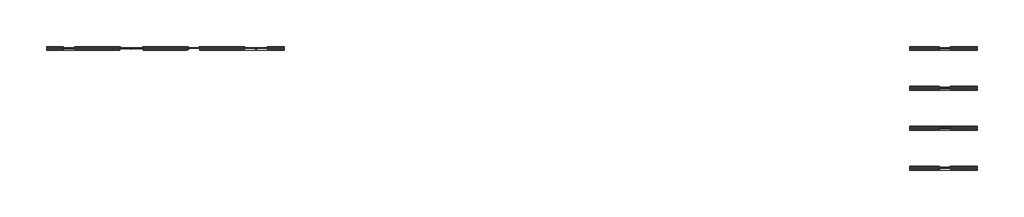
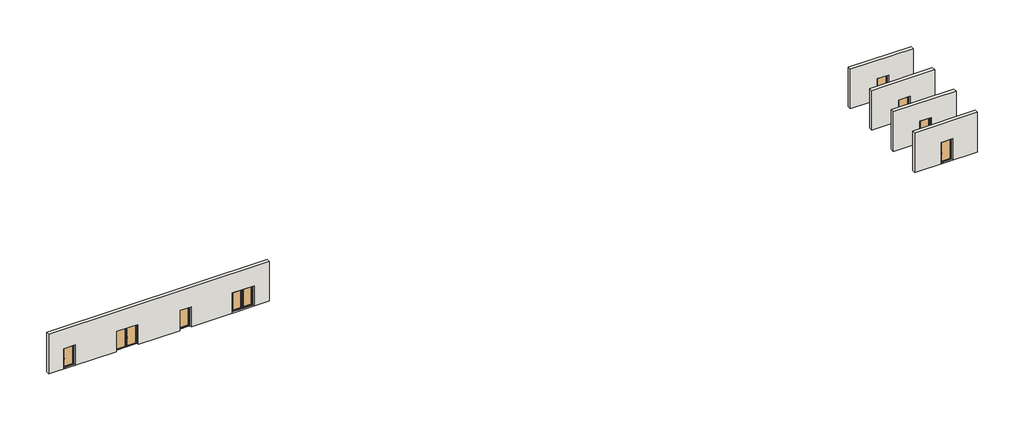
# One storey: 8 doors, 5 walls.
"""IFC4 building model written with IfcOpenShell, lengths in millimetres."""

from ifc_helpers import new_model, si_unit, origin, place, context, project, spatial, faceted_brep, transform, mapped, element, save
from components import door_7251b602, door_7a2ea824, door_cea9ec58, door_9e95c6df, door_001576ba, door_6dbdc447, door_154f1db0, door_6d8f63cc

model = new_model("IFC4")

# Units and contexts
model_context = context("Model", 3, world=origin())
ifc_project = project(units=[si_unit("LENGTHUNIT", "METRE", prefix="MILLI")], contexts=[model_context])

# Site, building, storey
site = spatial("IfcSite", under=ifc_project)
building = spatial("IfcBuilding", under=site)
storey = spatial("IfcBuildingStorey", under=building, Name="REY 01 - Overview Windows", Elevation=0.0)

# Doors
placement = place(None, origin())
door_shape = door_7251b602(model_context)
element("IfcDoor", 1, ObjectType="Reynaers_Masterline 8_Window Door_Outward Opening_Double Vent : Reynaers_Masterline 8_Window Door_Outward Opening_Double Vent", at=placement, inside=storey, context=model_context, shape_type="MappedRepresentation", body=[
    mapped(door_shape, transform((9884.3247656, 9435.7590232, 0.0), x_axis=(1.0, 0.0, 0.0), y_axis=(0.0, 1.0, 0.0), z_axis=(0.0, 0.0, 1.0))),
])
door_2_shape = door_7a2ea824(model_context)
element("IfcDoor", 2, ObjectType="Reynaers_Masterline 8_Window Door_Outward Opening_Single Vent : Reynaers_Masterline 8_Window Door_Outward Opening_Single Vent", at=placement, inside=storey, context=model_context, shape_type="MappedRepresentation", body=[
    mapped(door_2_shape, transform((4351.3247656, 9435.7590232, 0.0), x_axis=(1.0, 0.0, 0.0), y_axis=(0.0, 1.0, 0.0), z_axis=(0.0, 0.0, 1.0))),
])
door_3_shape = door_cea9ec58(model_context)
element("IfcDoor", 3, ObjectType="Reynaers_Masterline 8_Window Door_Inward Opening_Double Vent : Reynaers_Masterline 8_Window Door_Inward Opening_Double Vent", at=placement, inside=storey, context=model_context, shape_type="MappedRepresentation", body=[
    mapped(door_3_shape, transform((-1182.6752344, 9435.7590232, 0.0), x_axis=(1.0, 0.0, 0.0), y_axis=(0.0, 1.0, 0.0), z_axis=(0.0, 0.0, 1.0))),
])
door_4_shape = door_9e95c6df(model_context)
element("IfcDoor", 4, ObjectType="Reynaers_Masterline 8_Window Door_Inward Opening_Single Vent : Reynaers_Masterline 8_Window Door_Inward Opening_Single Vent", at=placement, inside=storey, context=model_context, shape_type="MappedRepresentation", body=[
    mapped(door_4_shape, transform((-6715.6752344, 9435.7590232, 0.0), x_axis=(1.0, 0.0, 0.0), y_axis=(0.0, 1.0, 0.0), z_axis=(0.0, 0.0, 1.0))),
])
door_5_shape = door_001576ba(model_context)
element("IfcDoor", 5, ObjectType="Reynaers_Masterline 8_Window Door_Inward Opening_Single Vent : Reynaers_Masterline 8_Window Door_Inward Opening_Single Vent", at=placement, inside=storey, context=model_context, shape_type="MappedRepresentation", body=[
    mapped(door_5_shape, transform((71071.8247656, 5887.8975638, 0.0), x_axis=(1.0, 0.0, 0.0), y_axis=(0.0, 1.0, 0.0), z_axis=(0.0, 0.0, 1.0))),
])
door_6_shape = door_6dbdc447(model_context)
element("IfcDoor", 6, ObjectType="Reynaers_Masterline 8_Window Door_Inward Opening_Single Vent : Reynaers_Masterline 8_Window Door_Inward Opening_Single Vent", at=placement, inside=storey, context=model_context, shape_type="MappedRepresentation", body=[
    mapped(door_6_shape, transform((71071.8247656, 9435.7590232, 0.0), x_axis=(1.0, 0.0, 0.0), y_axis=(0.0, 1.0, 0.0), z_axis=(0.0, 0.0, 1.0))),
])
door_7_shape = door_154f1db0(model_context)
element("IfcDoor", 7, ObjectType="Reynaers_Masterline 8_Window Door_Inward Opening_Single Vent : Reynaers_Masterline 8_Window Door_Inward Opening_Single Vent", at=placement, inside=storey, context=model_context, shape_type="MappedRepresentation", body=[
    mapped(door_7_shape, transform((71071.8247656, -1212.1024362, 0.0), x_axis=(1.0, 0.0, 0.0), y_axis=(0.0, 1.0, 0.0), z_axis=(0.0, 0.0, 1.0))),
])
door_8_shape = door_6d8f63cc(model_context)
element("IfcDoor", 8, ObjectType="Reynaers_Masterline 8_Window Door_Inward Opening_Single Vent : Reynaers_Masterline 8_Window Door_Inward Opening_Single Vent", at=placement, inside=storey, context=model_context, shape_type="MappedRepresentation", body=[
    mapped(door_8_shape, transform((71071.8247656, 2335.7590232, 0.0), x_axis=(1.0, 0.0, 0.0), y_axis=(0.0, 1.0, 0.0), z_axis=(0.0, 0.0, 1.0))),
])

# Walls
element("IfcWall", 9, ObjectType="21_SPM_90-30-80-140-10", at=placement, inside=storey, context=model_context, shape_type="Brep", body=[
    faceted_brep([(12384.3247656, 9260.7590232, 0.0), (12384.3247656, 9260.7590232, 4000.0), (-8715.6752344, 9260.7590232, 4000.0), (-8715.6752344, 9260.7590232, 0.0), (-2232.6752344, 9260.7590232, 0.0), (-2232.6752344, 9260.7590232, 2050.0), (-132.6752344, 9260.7590232, 2050.0), (-132.6752344, 9260.7590232, 0.0), (3801.3247656, 9260.7590232, 0.0), (3801.3247656, 9260.7590232, 2050.0), (4901.3247656, 9260.7590232, 2050.0), (4901.3247656, 9260.7590232, 0.0), (8834.3247656, 9260.7590232, 2050.0), (10934.3247656, 9260.7590232, 2050.0), (10934.3247656, 9260.7590232, 2.0), (8834.3247656, 9260.7590232, 2.0), (-7265.6752344, 9260.7590232, 2050.0), (-6165.6752344, 9260.7590232, 2050.0), (-6165.6752344, 9260.7590232, 1.0), (-7265.6752344, 9260.7590232, 1.0), (12384.3247656, 9610.7590232, 4000.0), (12384.3247656, 9610.7590232, 0.0), (10884.3247656, 9610.7590232, 0.0), (10884.3247656, 9610.7590232, 2000.0), (8884.3247656, 9610.7590232, 2000.0), (8884.3247656, 9610.7590232, 0.0), (4851.3247656, 9610.7590232, 0.0), (4851.3247656, 9610.7590232, 2000.0), (3851.3247656, 9610.7590232, 2000.0), (3851.3247656, 9610.7590232, 0.0), (-182.6752344, 9610.7590232, 0.0), (-182.6752344, 9610.7590232, 2000.0), (-2182.6752344, 9610.7590232, 2000.0), (-2182.6752344, 9610.7590232, 0.0), (-6215.6752344, 9610.7590232, 0.0), (-6215.6752344, 9610.7590232, 2000.0), (-7215.6752344, 9610.7590232, 2000.0), (-7215.6752344, 9610.7590232, 0.0), (-8715.6752344, 9610.7590232, 0.0), (-8715.6752344, 9610.7590232, 4000.0), (4901.3247656, 9520.7590232, 0.0), (4851.3247656, 9520.7590232, 0.0), (8884.3247656, 9520.7590232, 0.0), (10884.3247656, 9520.7590232, 0.0), (-7215.6752344, 9520.7590232, 0.0), (-6215.6752344, 9520.7590232, 0.0), (-2182.6752344, 9520.7590232, 0.0), (-2232.6752344, 9520.7590232, 0.0), (3851.3247656, 9520.7590232, 0.0), (3801.3247656, 9520.7590232, 0.0), (-132.6752344, 9520.7590232, 0.0), (-182.6752344, 9520.7590232, 0.0), (4851.3247656, 9520.7590232, 2000.0), (3851.3247656, 9520.7590232, 2000.0), (4901.3247656, 9520.7590232, 2050.0), (3801.3247656, 9520.7590232, 2050.0), (10884.3247656, 9520.7590232, 2000.0), (8884.3247656, 9520.7590232, 2000.0), (8884.3247656, 9520.7590232, 2.0), (10884.3247656, 9520.7590232, 2.0), (10934.3247656, 9520.7590232, 2050.0), (8834.3247656, 9520.7590232, 2050.0), (8834.3247656, 9520.7590232, 2.0), (10934.3247656, 9520.7590232, 2.0), (-6215.6752344, 9520.7590232, 2000.0), (-7215.6752344, 9520.7590232, 2000.0), (-7215.6752344, 9520.7590232, 1.0), (-6215.6752344, 9520.7590232, 1.0), (-6165.6752344, 9520.7590232, 2050.0), (-7265.6752344, 9520.7590232, 2050.0), (-7265.6752344, 9520.7590232, 1.0), (-6165.6752344, 9520.7590232, 1.0), (-182.6752344, 9520.7590232, 2000.0), (-2182.6752344, 9520.7590232, 2000.0), (-132.6752344, 9520.7590232, 2050.0), (-2232.6752344, 9520.7590232, 2050.0)], [[[0, 1, 2, 3, 4, 5, 6, 7, 8, 9, 10, 11], [12, 13, 14, 15], [16, 17, 18, 19]], [[20, 21, 22, 23, 24, 25, 26, 27, 28, 29, 30, 31, 32, 33, 34, 35, 36, 37, 38, 39]], [[21, 0, 11, 40, 41, 26, 25, 42, 43, 22]], [[3, 38, 37, 44, 45, 34, 33, 46, 47, 4]], [[29, 48, 49, 8, 7, 50, 51, 30]], [[1, 0, 21, 20]], [[2, 1, 20, 39]], [[3, 2, 39, 38]], [[27, 52, 53, 28]], [[28, 53, 48, 29]], [[52, 27, 26, 41]], [[54, 10, 9, 55]], [[53, 52, 41, 40, 54, 55, 49, 48]], [[55, 9, 8, 49]], [[10, 54, 40, 11]], [[23, 56, 57, 24]], [[24, 57, 58, 42, 25]], [[42, 58, 59, 43]], [[56, 23, 22, 43, 59]], [[60, 13, 12, 61]], [[59, 58, 62, 15, 14, 63]], [[57, 56, 59, 63, 60, 61, 62, 58]], [[61, 12, 15, 62]], [[13, 60, 63, 14]], [[35, 64, 65, 36]], [[36, 65, 66, 44, 37]], [[44, 66, 67, 45]], [[64, 35, 34, 45, 67]], [[68, 17, 16, 69]], [[67, 66, 70, 19, 18, 71]], [[65, 64, 67, 71, 68, 69, 70, 66]], [[69, 16, 19, 70]], [[17, 68, 71, 18]], [[31, 72, 73, 32]], [[32, 73, 46, 33]], [[72, 31, 30, 51]], [[74, 6, 5, 75]], [[73, 72, 51, 50, 74, 75, 47, 46]], [[75, 5, 4, 47]], [[6, 74, 50, 7]]]),
])
element("IfcWall", 10, ObjectType="21_SPM_90-30-80-140-10", at=placement, inside=storey, context=model_context, shape_type="Brep", body=[
    faceted_brep([(67971.8247656, 5712.8975638, 0.0), (73971.8247656, 5712.8975638, 0.0), (73971.8247656, 5712.8975638, 4000.0), (67971.8247656, 5712.8975638, 4000.0), (70521.8247656, 5712.8975638, 2150.0), (71621.8247656, 5712.8975638, 2150.0), (71621.8247656, 5712.8975638, 1.0), (70521.8247656, 5712.8975638, 1.0), (73971.8247656, 6062.8975638, 4000.0), (73971.8247656, 6062.8975638, 0.0), (71571.8247656, 6062.8975638, 0.0), (71571.8247656, 6062.8975638, 2100.0), (70571.8247656, 6062.8975638, 2100.0), (70571.8247656, 6062.8975638, 0.0), (67971.8247656, 6062.8975638, 0.0), (67971.8247656, 6062.8975638, 4000.0), (70571.8247656, 5972.8975638, 0.0), (71571.8247656, 5972.8975638, 0.0), (71571.8247656, 5972.8975638, 2100.0), (70571.8247656, 5972.8975638, 2100.0), (70571.8247656, 5972.8975638, 1.0), (71571.8247656, 5972.8975638, 1.0), (71621.8247656, 5972.8975638, 2150.0), (70521.8247656, 5972.8975638, 2150.0), (70521.8247656, 5972.8975638, 1.0), (71621.8247656, 5972.8975638, 1.0)], [[[0, 1, 2, 3], [4, 5, 6, 7]], [[8, 9, 10, 11, 12, 13, 14, 15]], [[1, 0, 14, 13, 16, 17, 10, 9]], [[2, 1, 9, 8]], [[3, 2, 8, 15]], [[0, 3, 15, 14]], [[11, 18, 19, 12]], [[12, 19, 20, 16, 13]], [[16, 20, 21, 17]], [[18, 11, 10, 17, 21]], [[22, 5, 4, 23]], [[21, 20, 24, 7, 6, 25]], [[19, 18, 21, 25, 22, 23, 24, 20]], [[23, 4, 7, 24]], [[5, 22, 25, 6]]]),
])
element("IfcWall", 11, ObjectType="21_SPM_90-30-80-140-10", at=placement, inside=storey, context=model_context, shape_type="Brep", body=[
    faceted_brep([(67971.8247656, 9260.7590232, 0.0), (73971.8247656, 9260.7590232, 0.0), (73971.8247656, 9260.7590232, 4000.0), (67971.8247656, 9260.7590232, 4000.0), (70521.8247656, 9260.7590232, 2150.0), (71621.8247656, 9260.7590232, 2150.0), (71621.8247656, 9260.7590232, 1.0), (70521.8247656, 9260.7590232, 1.0), (73971.8247656, 9610.7590232, 4000.0), (73971.8247656, 9610.7590232, 0.0), (71571.8247656, 9610.7590232, 0.0), (71571.8247656, 9610.7590232, 2100.0), (70571.8247656, 9610.7590232, 2100.0), (70571.8247656, 9610.7590232, 0.0), (67971.8247656, 9610.7590232, 0.0), (67971.8247656, 9610.7590232, 4000.0), (70571.8247656, 9520.7590232, 0.0), (71571.8247656, 9520.7590232, 0.0), (71571.8247656, 9520.7590232, 2100.0), (70571.8247656, 9520.7590232, 2100.0), (70571.8247656, 9520.7590232, 1.0), (71571.8247656, 9520.7590232, 1.0), (71621.8247656, 9520.7590232, 2150.0), (70521.8247656, 9520.7590232, 2150.0), (70521.8247656, 9520.7590232, 1.0), (71621.8247656, 9520.7590232, 1.0)], [[[0, 1, 2, 3], [4, 5, 6, 7]], [[8, 9, 10, 11, 12, 13, 14, 15]], [[1, 0, 14, 13, 16, 17, 10, 9]], [[2, 1, 9, 8]], [[3, 2, 8, 15]], [[0, 3, 15, 14]], [[11, 18, 19, 12]], [[12, 19, 20, 16, 13]], [[16, 20, 21, 17]], [[18, 11, 10, 17, 21]], [[22, 5, 4, 23]], [[21, 20, 24, 7, 6, 25]], [[19, 18, 21, 25, 22, 23, 24, 20]], [[23, 4, 7, 24]], [[5, 22, 25, 6]]]),
])
element("IfcWall", 12, ObjectType="21_SPM_90-30-80-140-10", at=placement, inside=storey, context=model_context, shape_type="Brep", body=[
    faceted_brep([(67971.8247656, -1387.1024362, 0.0), (73971.8247656, -1387.1024362, 0.0), (73971.8247656, -1387.1024362, 4000.0), (67971.8247656, -1387.1024362, 4000.0), (70521.8247656, -1387.1024362, 2150.0), (71621.8247656, -1387.1024362, 2150.0), (71621.8247656, -1387.1024362, 1.0), (70521.8247656, -1387.1024362, 1.0), (73971.8247656, -1037.1024362, 4000.0), (73971.8247656, -1037.1024362, 0.0), (71571.8247656, -1037.1024362, 0.0), (71571.8247656, -1037.1024362, 2100.0), (70571.8247656, -1037.1024362, 2100.0), (70571.8247656, -1037.1024362, 0.0), (67971.8247656, -1037.1024362, 0.0), (67971.8247656, -1037.1024362, 4000.0), (70571.8247656, -1127.1024362, 0.0), (71571.8247656, -1127.1024362, 0.0), (71571.8247656, -1127.1024362, 2100.0), (70571.8247656, -1127.1024362, 2100.0), (70571.8247656, -1127.1024362, 1.0), (71571.8247656, -1127.1024362, 1.0), (71621.8247656, -1127.1024362, 2150.0), (70521.8247656, -1127.1024362, 2150.0), (70521.8247656, -1127.1024362, 1.0), (71621.8247656, -1127.1024362, 1.0)], [[[0, 1, 2, 3], [4, 5, 6, 7]], [[8, 9, 10, 11, 12, 13, 14, 15]], [[1, 0, 14, 13, 16, 17, 10, 9]], [[2, 1, 9, 8]], [[3, 2, 8, 15]], [[0, 3, 15, 14]], [[11, 18, 19, 12]], [[12, 19, 20, 16, 13]], [[16, 20, 21, 17]], [[18, 11, 10, 17, 21]], [[22, 5, 4, 23]], [[21, 20, 24, 7, 6, 25]], [[19, 18, 21, 25, 22, 23, 24, 20]], [[23, 4, 7, 24]], [[5, 22, 25, 6]]]),
])
element("IfcWall", 13, ObjectType="21_SPM_90-30-80-140-10", at=placement, inside=storey, context=model_context, shape_type="Brep", body=[
    faceted_brep([(67971.8247656, 2160.7590232, 0.0), (73971.8247656, 2160.7590232, 0.0), (73971.8247656, 2160.7590232, 4000.0), (67971.8247656, 2160.7590232, 4000.0), (70521.8247656, 2160.7590232, 2150.0), (71621.8247656, 2160.7590232, 2150.0), (71621.8247656, 2160.7590232, 1.0), (70521.8247656, 2160.7590232, 1.0), (73971.8247656, 2510.7590232, 4000.0), (73971.8247656, 2510.7590232, 0.0), (71571.8247656, 2510.7590232, 0.0), (71571.8247656, 2510.7590232, 2100.0), (70571.8247656, 2510.7590232, 2100.0), (70571.8247656, 2510.7590232, 0.0), (67971.8247656, 2510.7590232, 0.0), (67971.8247656, 2510.7590232, 4000.0), (70571.8247656, 2420.7590232, 0.0), (71571.8247656, 2420.7590232, 0.0), (71571.8247656, 2420.7590232, 2100.0), (70571.8247656, 2420.7590232, 2100.0), (70571.8247656, 2420.7590232, 1.0), (71571.8247656, 2420.7590232, 1.0), (71621.8247656, 2420.7590232, 2150.0), (70521.8247656, 2420.7590232, 2150.0), (70521.8247656, 2420.7590232, 1.0), (71621.8247656, 2420.7590232, 1.0)], [[[0, 1, 2, 3], [4, 5, 6, 7]], [[8, 9, 10, 11, 12, 13, 14, 15]], [[1, 0, 14, 13, 16, 17, 10, 9]], [[2, 1, 9, 8]], [[3, 2, 8, 15]], [[0, 3, 15, 14]], [[11, 18, 19, 12]], [[12, 19, 20, 16, 13]], [[16, 20, 21, 17]], [[18, 11, 10, 17, 21]], [[22, 5, 4, 23]], [[21, 20, 24, 7, 6, 25]], [[19, 18, 21, 25, 22, 23, 24, 20]], [[23, 4, 7, 24]], [[5, 22, 25, 6]]]),
])

save(model, "model.ifc")
